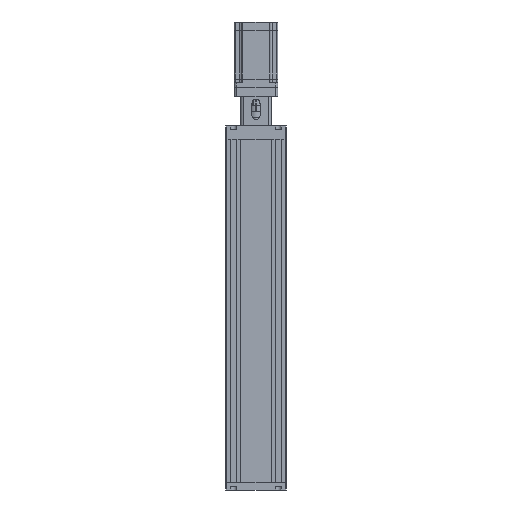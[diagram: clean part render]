
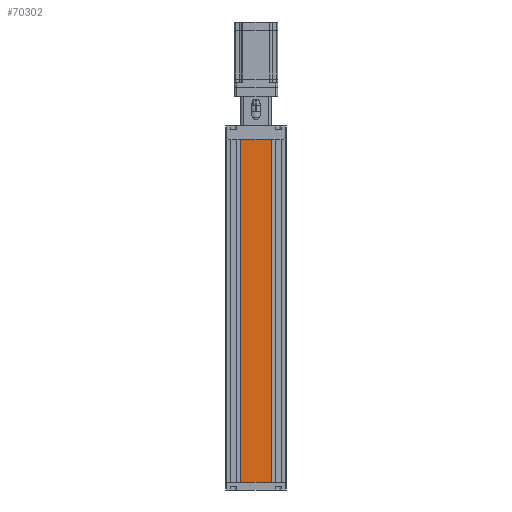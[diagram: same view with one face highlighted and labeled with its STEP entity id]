
A CAD part, front view. The second image highlights one B-rep face of the part: STEP entity #70302.
In plain terms, the highlighted planar face has unit normal (0, -1, 0).
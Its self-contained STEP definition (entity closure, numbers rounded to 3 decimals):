
#723 = EDGE_CURVE ( 'NONE', #14235, #31671, #74345, .T. ) ;
#2651 = ORIENTED_EDGE ( 'NONE', *, *, #21677, .F. ) ;
#3773 = FACE_OUTER_BOUND ( 'NONE', #23652, .T. ) ;
#4508 = VECTOR ( 'NONE', #68732, 1000. ) ;
#6460 = DIRECTION ( 'NONE',  ( 0., 0., 1. ) ) ;
#7977 = ORIENTED_EDGE ( 'NONE', *, *, #15005, .F. ) ;
#11256 = VECTOR ( 'NONE', #61397, 1000. ) ;
#12138 = DIRECTION ( 'NONE',  ( 0., 0., 1. ) ) ;
#14235 = VERTEX_POINT ( 'NONE', #19576 ) ;
#15005 = EDGE_CURVE ( 'NONE', #52194, #31671, #46526, .T. ) ;
#19576 = CARTESIAN_POINT ( 'NONE',  ( 30., -29.2, 340. ) ) ;
#21677 = EDGE_CURVE ( 'NONE', #54701, #52194, #54480, .T. ) ;
#23652 = EDGE_LOOP ( 'NONE', ( #7977, #2651, #35666, #53772 ) ) ;
#24303 = DIRECTION ( 'NONE',  ( 0., 1., 0. ) ) ;
#31671 = VERTEX_POINT ( 'NONE', #44960 ) ;
#33907 = CARTESIAN_POINT ( 'NONE',  ( -30., -29.2, 340. ) ) ;
#35666 = ORIENTED_EDGE ( 'NONE', *, *, #71864, .T. ) ;
#43567 = CARTESIAN_POINT ( 'NONE',  ( -30., -29.2, -340. ) ) ;
#43805 = VECTOR ( 'NONE', #71085, 1000. ) ;
#44960 = CARTESIAN_POINT ( 'NONE',  ( -30., -29.2, 340. ) ) ;
#46526 = LINE ( 'NONE', #43567, #11256 ) ;
#52194 = VERTEX_POINT ( 'NONE', #61988 ) ;
#53772 = ORIENTED_EDGE ( 'NONE', *, *, #723, .T. ) ;
#54196 = AXIS2_PLACEMENT_3D ( 'NONE', #71351, #24303, #6460 ) ;
#54480 = LINE ( 'NONE', #56600, #4508 ) ;
#54701 = VERTEX_POINT ( 'NONE', #56655 ) ;
#56600 = CARTESIAN_POINT ( 'NONE',  ( -30., -29.2, -340. ) ) ;
#56655 = CARTESIAN_POINT ( 'NONE',  ( 30., -29.2, -340. ) ) ;
#61397 = DIRECTION ( 'NONE',  ( 0., 0., 1. ) ) ;
#61988 = CARTESIAN_POINT ( 'NONE',  ( -30., -29.2, -340. ) ) ;
#64446 = CARTESIAN_POINT ( 'NONE',  ( 30., -29.2, -340. ) ) ;
#66559 = LINE ( 'NONE', #64446, #74863 ) ;
#68732 = DIRECTION ( 'NONE',  ( -1., 0., 0. ) ) ;
#70302 = ADVANCED_FACE ( 'NONE', ( #3773 ), #71107, .F. ) ;
#71085 = DIRECTION ( 'NONE',  ( -1., 0., 0. ) ) ;
#71107 = PLANE ( 'NONE',  #54196 ) ;
#71351 = CARTESIAN_POINT ( 'NONE',  ( -30., -29.2, -340. ) ) ;
#71864 = EDGE_CURVE ( 'NONE', #54701, #14235, #66559, .T. ) ;
#74345 = LINE ( 'NONE', #33907, #43805 ) ;
#74863 = VECTOR ( 'NONE', #12138, 1000. ) ;
